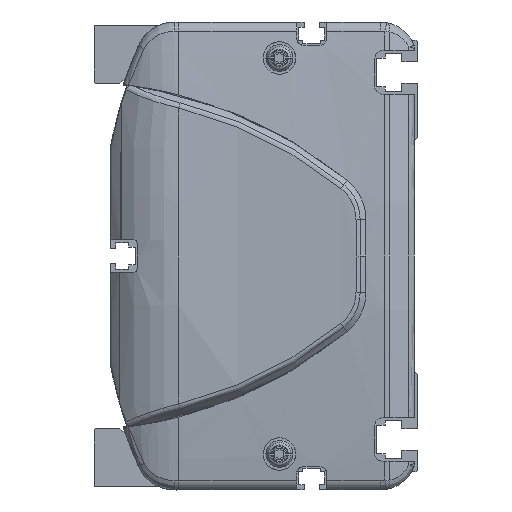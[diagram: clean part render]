
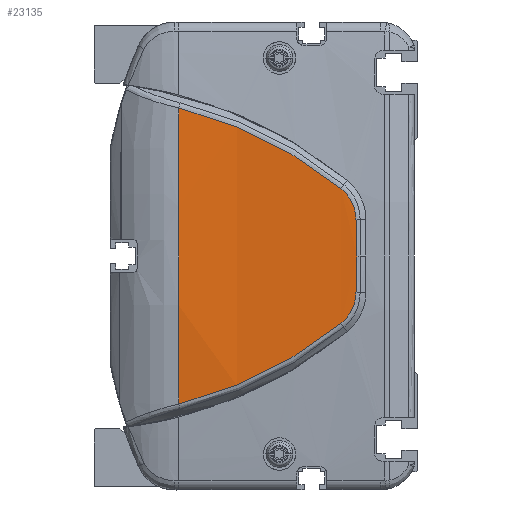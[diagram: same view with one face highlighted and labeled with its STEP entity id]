
A CAD part, left-side view. The second image highlights one B-rep face of the part: STEP entity #23135.
In plain terms, the highlighted cylindrical face has radius 500 mm (diameter 1000 mm), a partial arc.
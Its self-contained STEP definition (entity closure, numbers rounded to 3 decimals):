
#7461=CARTESIAN_POINT('',(486.,66.362,0.));
#7462=DIRECTION('',(0.,-1.,0.));
#7463=DIRECTION('',(-0.997,0.,0.082));
#7464=AXIS2_PLACEMENT_3D('',#7461,#7462,#7463);
#7515=CARTESIAN_POINT('',(-13.648,21.313,
-18.759));
#7516=CARTESIAN_POINT('',(-13.449,27.904,
-24.058));
#7517=CARTESIAN_POINT('',(-12.934,42.195,
-33.27));
#7518=CARTESIAN_POINT('',(-12.471,58.156,
-39.127));
#7519=CARTESIAN_POINT('',(-12.306,66.362,
-41.121));
#7521=CARTESIAN_POINT('',(-12.306,66.362,41.121));
#7522=CARTESIAN_POINT('',(-12.471,58.156,39.127));
#7523=CARTESIAN_POINT('',(-12.934,42.195,33.27));
#7524=CARTESIAN_POINT('',(-13.449,27.904,24.058));
#7525=CARTESIAN_POINT('',(-13.648,21.313,18.759));
#7527=CARTESIAN_POINT('',(-13.648,21.313,18.759));
#7528=CARTESIAN_POINT('',(-13.686,20.035,17.736));
#7529=CARTESIAN_POINT('',(-13.779,17.936,15.107));
#7530=CARTESIAN_POINT('',(-13.863,17.152,11.827));
#7531=CARTESIAN_POINT('',(-13.896,17.124,10.178));
#7533=CARTESIAN_POINT('',(-13.896,17.124,10.178));
#7534=CARTESIAN_POINT('',(-13.92,17.107,9.022));
#7535=CARTESIAN_POINT('',(-13.959,17.067,6.727));
#7536=CARTESIAN_POINT('',(-13.993,16.979,3.333));
#7537=CARTESIAN_POINT('',(-14.,16.898,1.105));
#7538=CARTESIAN_POINT('',(-14.,16.849,
0.));
#7540=CARTESIAN_POINT('',(-14.,16.849,
0.));
#7541=CARTESIAN_POINT('',(-14.,16.898,
-1.105));
#7542=CARTESIAN_POINT('',(-13.993,16.979,
-3.333));
#7543=CARTESIAN_POINT('',(-13.959,17.067,
-6.726));
#7544=CARTESIAN_POINT('',(-13.92,17.107,
-9.024));
#7545=CARTESIAN_POINT('',(-13.896,17.124,
-10.18));
#7547=CARTESIAN_POINT('',(-13.896,17.124,
-10.18));
#7548=CARTESIAN_POINT('',(-13.863,17.152,
-11.828));
#7549=CARTESIAN_POINT('',(-13.779,17.937,
-15.109));
#7550=CARTESIAN_POINT('',(-13.686,20.035,
-17.736));
#7551=CARTESIAN_POINT('',(-13.648,21.313,
-18.759));
#10768=VERTEX_POINT('',#7515);
#10769=VERTEX_POINT('',#7519);
#10770=CARTESIAN_POINT('',(-12.306,66.362,
41.121));
#10771=VERTEX_POINT('',#10770);
#10772=VERTEX_POINT('',#7525);
#10773=VERTEX_POINT('',#7531);
#10774=VERTEX_POINT('',#7538);
#10775=VERTEX_POINT('',#7545);
#23115=CARTESIAN_POINT('',(486.,8.006,0.));
#23116=DIRECTION('',(0.,1.,0.));
#23117=DIRECTION('',(1.,0.,0.));
#23118=AXIS2_PLACEMENT_3D('',#23115,#23116,#23117);
#23119=CYLINDRICAL_SURFACE('',#23118,500.);
#23121=ORIENTED_EDGE('',*,*,#23120,.T.);
#23122=ORIENTED_EDGE('',*,*,#23089,.F.);
#23124=ORIENTED_EDGE('',*,*,#23123,.T.);
#23126=ORIENTED_EDGE('',*,*,#23125,.T.);
#23128=ORIENTED_EDGE('',*,*,#23127,.T.);
#23130=ORIENTED_EDGE('',*,*,#23129,.T.);
#23132=ORIENTED_EDGE('',*,*,#23131,.T.);
#23133=EDGE_LOOP('',(#23121,#23122,#23124,#23126,#23128,#23130,#23132));
#23134=FACE_OUTER_BOUND('',#23133,.F.);
#23135=ADVANCED_FACE('',(#23134),#23119,.T.);
#7465=CIRCLE('',#7464,500.);
#7520=B_SPLINE_CURVE_WITH_KNOTS('',3,(#7515,#7516,#7517,#7518,#7519),
.UNSPECIFIED.,.F.,.F.,(4,1,4),(0.,0.5,1.),.UNSPECIFIED.);
#7526=B_SPLINE_CURVE_WITH_KNOTS('',3,(#7521,#7522,#7523,#7524,#7525),
.UNSPECIFIED.,.F.,.F.,(4,1,4),(0.,0.5,1.),.UNSPECIFIED.);
#7532=B_SPLINE_CURVE_WITH_KNOTS('',3,(#7527,#7528,#7529,#7530,#7531),
.UNSPECIFIED.,.F.,.F.,(4,1,4),(0.,0.5,1.),.UNSPECIFIED.);
#7539=B_SPLINE_CURVE_WITH_KNOTS('',3,(#7533,#7534,#7535,#7536,#7537,#7538),
.UNSPECIFIED.,.F.,.F.,(4,1,1,4),(0.,0.333,0.667,1.),
.UNSPECIFIED.);
#7546=B_SPLINE_CURVE_WITH_KNOTS('',3,(#7540,#7541,#7542,#7543,#7544,#7545),
.UNSPECIFIED.,.F.,.F.,(4,1,1,4),(0.,0.333,0.667,1.),
.UNSPECIFIED.);
#7552=B_SPLINE_CURVE_WITH_KNOTS('',3,(#7547,#7548,#7549,#7550,#7551),
.UNSPECIFIED.,.F.,.F.,(4,1,4),(0.,0.5,1.),.UNSPECIFIED.);
#23089=EDGE_CURVE('',#10771,#10769,#7465,.T.);
#23120=EDGE_CURVE('',#10768,#10769,#7520,.T.);
#23123=EDGE_CURVE('',#10771,#10772,#7526,.T.);
#23125=EDGE_CURVE('',#10772,#10773,#7532,.T.);
#23127=EDGE_CURVE('',#10773,#10774,#7539,.T.);
#23129=EDGE_CURVE('',#10774,#10775,#7546,.T.);
#23131=EDGE_CURVE('',#10775,#10768,#7552,.T.);
